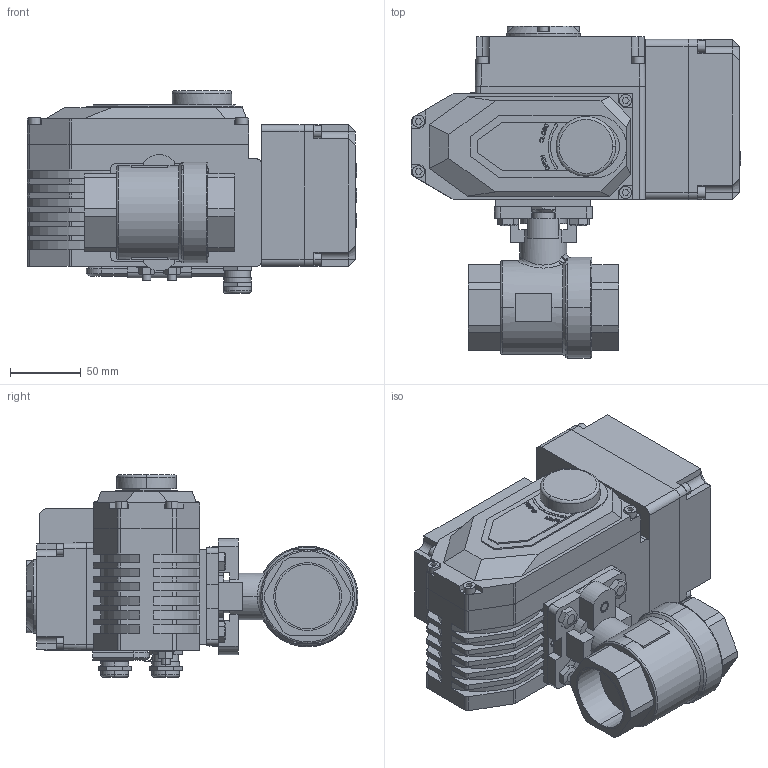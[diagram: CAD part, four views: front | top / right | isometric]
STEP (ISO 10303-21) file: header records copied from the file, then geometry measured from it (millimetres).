
FILE_DESCRIPTION((''),'2;1');
FILE_NAME('BV-21F_EAR_A_ASM','2025-03-02T',('AMD'),(''),'PRO/ENGINEER BY PARAMETRIC TECHNOLOGY CORPORATION, 2008020','PRO/ENGINEER BY PARAMETRIC TECHNOLOGY CORPORATION, 2008020','');
FILE_SCHEMA(('CONFIG_CONTROL_DESIGN'));
Length unit declared in the file: millimetre
Products named in the file (19): KORPUS_KRANA; SHAIBA_KRANA; VINT_KRANA; SB_KRAN_ASM; DET_1; V-11738-M5; V-11738-M4; DET_2; KREPLENIE; KLUCH; DET_3; G-5915-M6; ELECTROPRIVOD_ASM; DET_4; DET_5; DISPLAY_ASM; ELECTROPRIVOD_WITH_DISPLAY_ASM; B-7798-M8-20; BV-21F_EAR_A_ASM
Assembly tree (37 placements, depth 4):
  BV-21F_EAR_A_ASM
    SB_KRAN_ASM
      KORPUS_KRANA
      SHAIBA_KRANA
      VINT_KRANA  x2
    ELECTROPRIVOD_WITH_DISPLAY_ASM
      ELECTROPRIVOD_ASM
        DET_1
        V-11738-M5  x8
        V-11738-M4  x4
        DET_2
        KREPLENIE
        KLUCH
        DET_3
        G-5915-M6  x2
      DISPLAY_ASM
        DET_4
        DET_5
        V-11738-M5  x4
    B-7798-M8-20  x4
Bounding box: 232 x 234 x 143 mm (x, y, z)
Volume: 2715540.3 mm3; surface area: 319000 mm2
Topology: 33 solids, 73 shells, 2423 faces, 6458 edges, 4258 vertices
Faces by surface type: plane 1637, cylinder 376, extrusion 300, cone 79, torus 19, bspline 12
Entity records: 67802 total; most frequent: CARTESIAN_POINT 14939, ORIENTED_EDGE 11296, DIRECTION 9766, EDGE_CURVE 5692, VECTOR 4638, LINE 4338, VERTEX_POINT 3763, AXIS2_PLACEMENT_3D 2564
